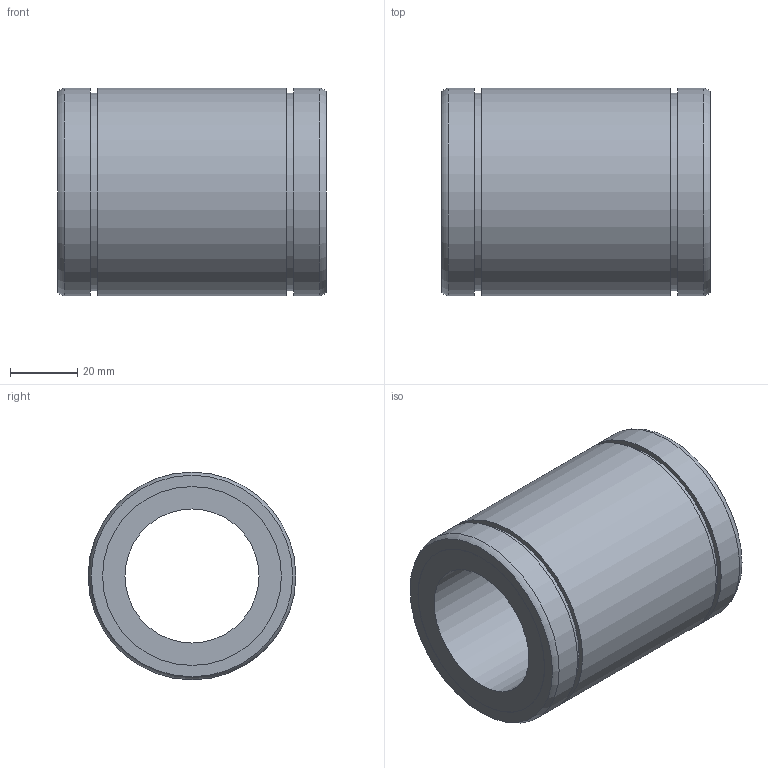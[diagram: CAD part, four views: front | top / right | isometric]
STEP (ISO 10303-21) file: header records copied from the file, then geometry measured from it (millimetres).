
FILE_DESCRIPTION((''),'2;1');
FILE_NAME('D:\製品 (図面)\カタログ用3D\リニアベアリング関連\STEP形式\LE\LE40.stp','2010-06-03T09:06:09',('Tsuchiya'),(''),'Autodesk Inventor 10','Autodesk Inventor 10','');
FILE_SCHEMA(('AUTOMOTIVE_DESIGN { 1 0 10303 214 1 1 1 1 }'));
Length unit declared in the file: millimetre
Products named in the file (1): LE40
Bounding box: 80 x 62 x 62 mm (x, y, z)
Volume: 139323.9 mm3; surface area: 29993.4 mm2
Topology: 1 solids, 1 shells, 18 faces, 28 edges, 18 vertices
Faces by surface type: plane 8, cylinder 8, torus 2
Full cylindrical faces by diameter (mm): 40 x1, 53.4 x2, 59 x2, 62 x3
Entity records: 391 total; most frequent: DIRECTION 74, CARTESIAN_POINT 55, AXIS2_PLACEMENT_3D 37, ORIENTED_EDGE 36, EDGE_LOOP 36, VERTEX_POINT 18, CIRCLE 18, EDGE_CURVE 18
